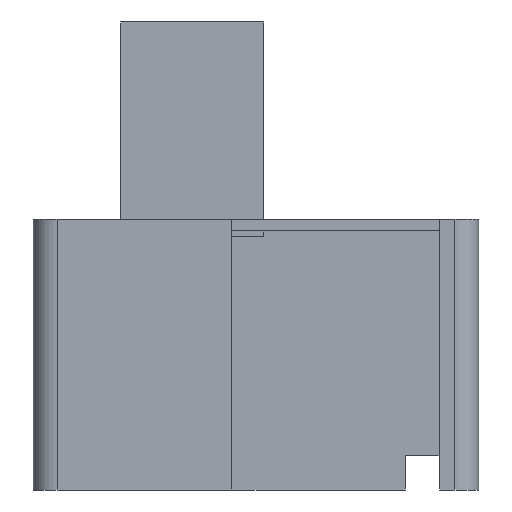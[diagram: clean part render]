
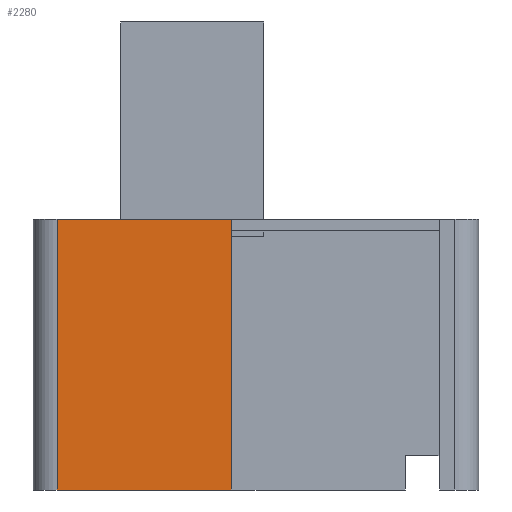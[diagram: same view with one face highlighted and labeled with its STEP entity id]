
A CAD part, front view. The second image highlights one B-rep face of the part: STEP entity #2280.
In plain terms, the highlighted planar face has unit normal (0, -1, 0).
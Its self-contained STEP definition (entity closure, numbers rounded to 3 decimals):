
#44 = PLANE('',#45);
#45 = AXIS2_PLACEMENT_3D('',#46,#47,#48);
#46 = CARTESIAN_POINT('',(-56.,-75.,74.4));
#47 = DIRECTION('',(0.,0.,1.));
#48 = DIRECTION('',(1.,0.,0.));
#72 = CYLINDRICAL_SURFACE('',#73,6.);
#73 = AXIS2_PLACEMENT_3D('',#74,#75,#76);
#74 = CARTESIAN_POINT('',(-50.,-69.,6.4));
#75 = DIRECTION('',(0.,0.,1.));
#76 = DIRECTION('',(-1.,-0.,0.));
#100 = PLANE('',#101);
#101 = AXIS2_PLACEMENT_3D('',#102,#103,#104);
#102 = CARTESIAN_POINT('',(-56.,-75.,6.4));
#103 = DIRECTION('',(0.,0.,1.));
#104 = DIRECTION('',(1.,0.,0.));
#425 = VERTEX_POINT('',#426);
#426 = CARTESIAN_POINT('',(-50.,-75.,74.4));
#448 = EDGE_CURVE('',#425,#449,#451,.T.);
#449 = VERTEX_POINT('',#450);
#450 = CARTESIAN_POINT('',(-6.2,-75.,74.4));
#451 = SURFACE_CURVE('',#452,(#456,#463),.PCURVE_S1.);
#452 = LINE('',#453,#454);
#453 = CARTESIAN_POINT('',(-56.,-75.,74.4));
#454 = VECTOR('',#455,1.);
#455 = DIRECTION('',(1.,0.,0.));
#456 = PCURVE('',#44,#457);
#457 = DEFINITIONAL_REPRESENTATION('',(#458),#462);
#458 = LINE('',#459,#460);
#459 = CARTESIAN_POINT('',(0.,0.));
#460 = VECTOR('',#461,1.);
#461 = DIRECTION('',(1.,0.));
#462 = ( GEOMETRIC_REPRESENTATION_CONTEXT(2) 
PARAMETRIC_REPRESENTATION_CONTEXT() REPRESENTATION_CONTEXT('2D SPACE',''
  ) );
#463 = PCURVE('',#464,#469);
#464 = PLANE('',#465);
#465 = AXIS2_PLACEMENT_3D('',#466,#467,#468);
#466 = CARTESIAN_POINT('',(-56.,-75.,6.4));
#467 = DIRECTION('',(0.,1.,0.));
#468 = DIRECTION('',(0.,0.,1.));
#469 = DEFINITIONAL_REPRESENTATION('',(#470),#474);
#470 = LINE('',#471,#472);
#471 = CARTESIAN_POINT('',(68.,0.));
#472 = VECTOR('',#473,1.);
#473 = DIRECTION('',(0.,1.));
#474 = ( GEOMETRIC_REPRESENTATION_CONTEXT(2) 
PARAMETRIC_REPRESENTATION_CONTEXT() REPRESENTATION_CONTEXT('2D SPACE',''
  ) );
#491 = PLANE('',#492);
#492 = AXIS2_PLACEMENT_3D('',#493,#494,#495);
#493 = CARTESIAN_POINT('',(-6.2,-80.5,6.));
#494 = DIRECTION('',(1.,0.,0.));
#495 = DIRECTION('',(0.,0.,1.));
#1294 = VERTEX_POINT('',#1295);
#1295 = CARTESIAN_POINT('',(-50.,-75.,6.4));
#1317 = EDGE_CURVE('',#1294,#425,#1318,.T.);
#1318 = SURFACE_CURVE('',#1319,(#1323,#1330),.PCURVE_S1.);
#1319 = LINE('',#1320,#1321);
#1320 = CARTESIAN_POINT('',(-50.,-75.,6.4));
#1321 = VECTOR('',#1322,1.);
#1322 = DIRECTION('',(0.,0.,1.));
#1323 = PCURVE('',#72,#1324);
#1324 = DEFINITIONAL_REPRESENTATION('',(#1325),#1329);
#1325 = LINE('',#1326,#1327);
#1326 = CARTESIAN_POINT('',(1.571,0.));
#1327 = VECTOR('',#1328,1.);
#1328 = DIRECTION('',(0.,1.));
#1329 = ( GEOMETRIC_REPRESENTATION_CONTEXT(2) 
PARAMETRIC_REPRESENTATION_CONTEXT() REPRESENTATION_CONTEXT('2D SPACE',''
  ) );
#1330 = PCURVE('',#464,#1331);
#1331 = DEFINITIONAL_REPRESENTATION('',(#1332),#1336);
#1332 = LINE('',#1333,#1334);
#1333 = CARTESIAN_POINT('',(0.,6.));
#1334 = VECTOR('',#1335,1.);
#1335 = DIRECTION('',(1.,0.));
#1336 = ( GEOMETRIC_REPRESENTATION_CONTEXT(2) 
PARAMETRIC_REPRESENTATION_CONTEXT() REPRESENTATION_CONTEXT('2D SPACE',''
  ) );
#1399 = EDGE_CURVE('',#1294,#1400,#1402,.T.);
#1400 = VERTEX_POINT('',#1401);
#1401 = CARTESIAN_POINT('',(-6.2,-75.,6.4));
#1402 = SURFACE_CURVE('',#1403,(#1407,#1414),.PCURVE_S1.);
#1403 = LINE('',#1404,#1405);
#1404 = CARTESIAN_POINT('',(-56.,-75.,6.4));
#1405 = VECTOR('',#1406,1.);
#1406 = DIRECTION('',(1.,0.,0.));
#1407 = PCURVE('',#100,#1408);
#1408 = DEFINITIONAL_REPRESENTATION('',(#1409),#1413);
#1409 = LINE('',#1410,#1411);
#1410 = CARTESIAN_POINT('',(0.,0.));
#1411 = VECTOR('',#1412,1.);
#1412 = DIRECTION('',(1.,0.));
#1413 = ( GEOMETRIC_REPRESENTATION_CONTEXT(2) 
PARAMETRIC_REPRESENTATION_CONTEXT() REPRESENTATION_CONTEXT('2D SPACE',''
  ) );
#1414 = PCURVE('',#464,#1415);
#1415 = DEFINITIONAL_REPRESENTATION('',(#1416),#1420);
#1416 = LINE('',#1417,#1418);
#1417 = CARTESIAN_POINT('',(0.,0.));
#1418 = VECTOR('',#1419,1.);
#1419 = DIRECTION('',(0.,1.));
#1420 = ( GEOMETRIC_REPRESENTATION_CONTEXT(2) 
PARAMETRIC_REPRESENTATION_CONTEXT() REPRESENTATION_CONTEXT('2D SPACE',''
  ) );
#2280 = ADVANCED_FACE('',(#2281),#464,.F.);
#2281 = FACE_BOUND('',#2282,.F.);
#2282 = EDGE_LOOP('',(#2283,#2284,#2285,#2286));
#2283 = ORIENTED_EDGE('',*,*,#1399,.F.);
#2284 = ORIENTED_EDGE('',*,*,#1317,.T.);
#2285 = ORIENTED_EDGE('',*,*,#448,.T.);
#2286 = ORIENTED_EDGE('',*,*,#2287,.T.);
#2287 = EDGE_CURVE('',#449,#1400,#2288,.T.);
#2288 = SURFACE_CURVE('',#2289,(#2293,#2299),.PCURVE_S1.);
#2289 = LINE('',#2290,#2291);
#2290 = CARTESIAN_POINT('',(-6.2,-75.,6.2));
#2291 = VECTOR('',#2292,1.);
#2292 = DIRECTION('',(0.,0.,-1.));
#2293 = PCURVE('',#464,#2294);
#2294 = DEFINITIONAL_REPRESENTATION('',(#2295),#2298);
#2295 = B_SPLINE_CURVE_WITH_KNOTS('',1,(#2296,#2297),.UNSPECIFIED.,.F.,
  .F.,(2,2),(-68.2,-0.2),.PIECEWISE_BEZIER_KNOTS.);
#2296 = CARTESIAN_POINT('',(68.,49.8));
#2297 = CARTESIAN_POINT('',(0.,49.8));
#2298 = ( GEOMETRIC_REPRESENTATION_CONTEXT(2) 
PARAMETRIC_REPRESENTATION_CONTEXT() REPRESENTATION_CONTEXT('2D SPACE',''
  ) );
#2299 = PCURVE('',#491,#2300);
#2300 = DEFINITIONAL_REPRESENTATION('',(#2301),#2304);
#2301 = B_SPLINE_CURVE_WITH_KNOTS('',1,(#2302,#2303),.UNSPECIFIED.,.F.,
  .F.,(2,2),(-68.2,-0.2),.PIECEWISE_BEZIER_KNOTS.);
#2302 = CARTESIAN_POINT('',(68.4,-5.5));
#2303 = CARTESIAN_POINT('',(0.4,-5.5));
#2304 = ( GEOMETRIC_REPRESENTATION_CONTEXT(2) 
PARAMETRIC_REPRESENTATION_CONTEXT() REPRESENTATION_CONTEXT('2D SPACE',''
  ) );
